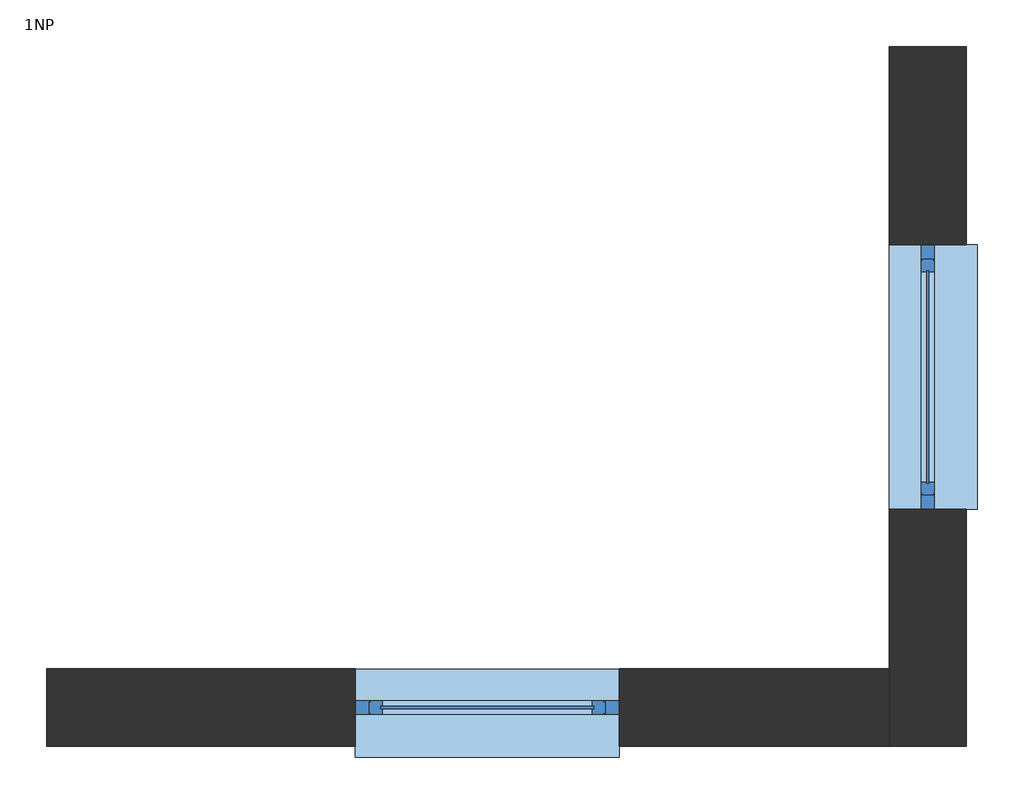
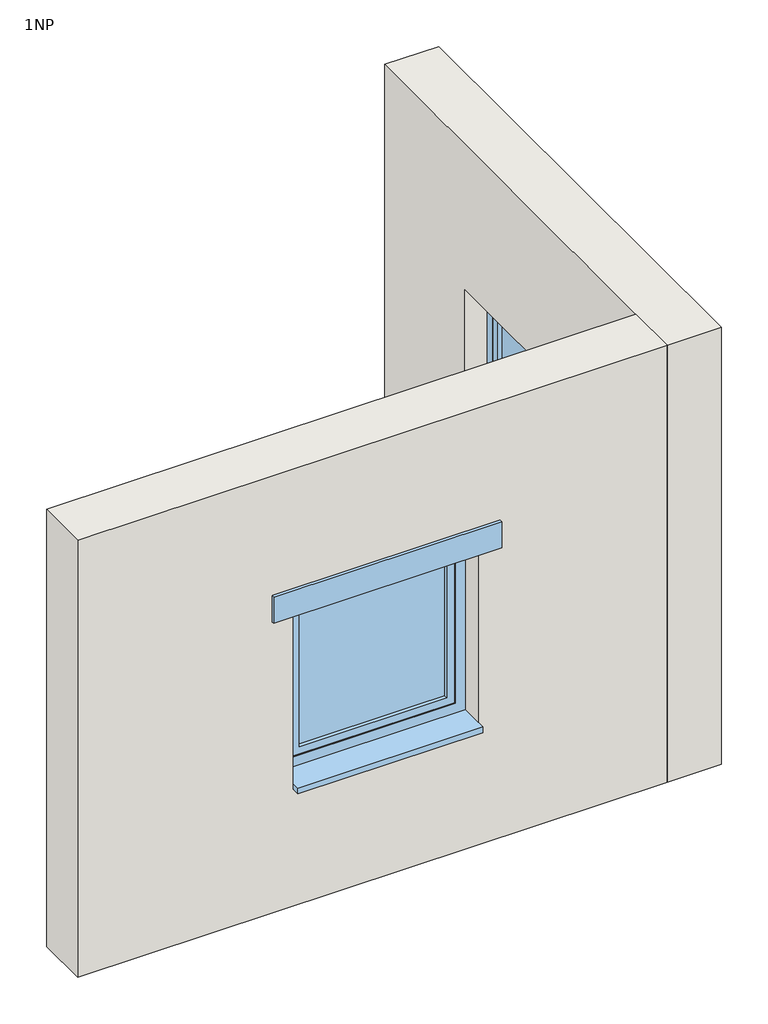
# One storey: 2 walls, 2 windows.
"""IFC4 building model written with IfcOpenShell, lengths in millimetres."""

from ifc_helpers import new_model, si_unit, frame, origin, place, context, project, spatial, polyline, outline, extrude, faceted_brep, transform, mapped, element, save
from components import window_1200_x_1200mm_0c9d717d

model = new_model("IFC4")

# Units and contexts
model_context = context("Model", 3, world=origin())
ifc_project = project(units=[si_unit("LENGTHUNIT", "METRE", prefix="MILLI")], contexts=[model_context])

# Site, building, storey
site = spatial("IfcSite", under=ifc_project)
building = spatial("IfcBuilding", under=site)
storey = spatial("IfcBuildingStorey", under=building, Name="1NP", Elevation=0.0)

# Walls
placement = place(None, origin())
element("IfcWall", 1, ObjectType="Exterior - Brick on Mtl. Stud", at=placement, inside=storey, context=model_context, shape_type="SweptSolid", body=[
    extrude(outline(polyline([(0.0, 265.0823573), (3000.0, 265.0823573), (3000.0, -3559.9176427), (0.0, -3559.9176427), (0.0, 265.0823573)]), holes=[polyline([(800.0, -959.9176427), (800.0, -2159.9176427), (2000.0, -2159.9176427), (2000.0, -959.9176427), (800.0, -959.9176427)])]), frame((0.0, 485.8832827, 0.0), z_axis=(0.0, 1.0, 0.0), x_axis=(0.0, 0.0, 1.0)), (0.0, 0.0, 1.0), 350.0),
])
element("IfcWall", 2, ObjectType="Exterior - Brick on Mtl. Stud", at=placement, inside=storey, context=model_context, shape_type="Brep", body=[
    faceted_brep([(265.0823573, 3660.8832827, 0.0), (265.0823573, 835.8832827, 0.0), (265.0823573, 485.8832827, 0.0), (265.0823573, 485.8832827, 3000.0), (265.0823573, 835.8832827, 3000.0), (265.0823573, 3660.8832827, 3000.0), (265.0823573, 2760.8832827, 800.0), (265.0823573, 2760.8832827, 2000.0), (265.0823573, 1560.8832827, 2000.0), (265.0823573, 1560.8832827, 800.0), (615.0823573, 3660.8832827, 0.0), (615.0823573, 3660.8832827, 3000.0), (615.0823573, 485.8832827, 3000.0), (615.0823573, 485.8832827, 0.0), (615.0823573, 2760.8832827, 800.0), (615.0823573, 1560.8832827, 800.0), (615.0823573, 1560.8832827, 2000.0), (615.0823573, 2760.8832827, 2000.0)], [[[0, 1, 2, 3, 4, 5], [6, 7, 8, 9]], [[10, 11, 12, 13], [14, 15, 16, 17]], [[2, 1, 0, 10, 13]], [[5, 4, 3, 12, 11]], [[0, 5, 11, 10]], [[3, 2, 13, 12]], [[7, 6, 14, 17]], [[8, 7, 17, 16]], [[9, 8, 16, 15]], [[6, 9, 15, 14]]]),
])

# Windows
window_1200_x_1200mm_shape = window_1200_x_1200mm_0c9d717d(model_context)
element("IfcWindow", 3, ObjectType="Lekce 16 Okno : 1200 x 1200mm", at=placement, inside=storey, context=model_context, shape_type="MappedRepresentation", body=[
    mapped(window_1200_x_1200mm_shape, transform((-1559.9176427, 660.8832827, 0.0), x_axis=(-0.9999999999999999, 0.0, 0.0), y_axis=(0.0, -0.9999999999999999, 0.0), z_axis=(0.0, 0.0, 1.0))),
])
element("IfcWindow", 4, ObjectType="Lekce 16 Okno : 1200 x 1200mm", at=placement, inside=storey, context=model_context, shape_type="MappedRepresentation", body=[
    mapped(window_1200_x_1200mm_shape, transform((440.0823573, 2160.8832827, 0.0), x_axis=(0.0, -1.0, 0.0), y_axis=(1.0, 0.0, 0.0), z_axis=(0.0, 0.0, 1.0))),
])

save(model, "model.ifc")
